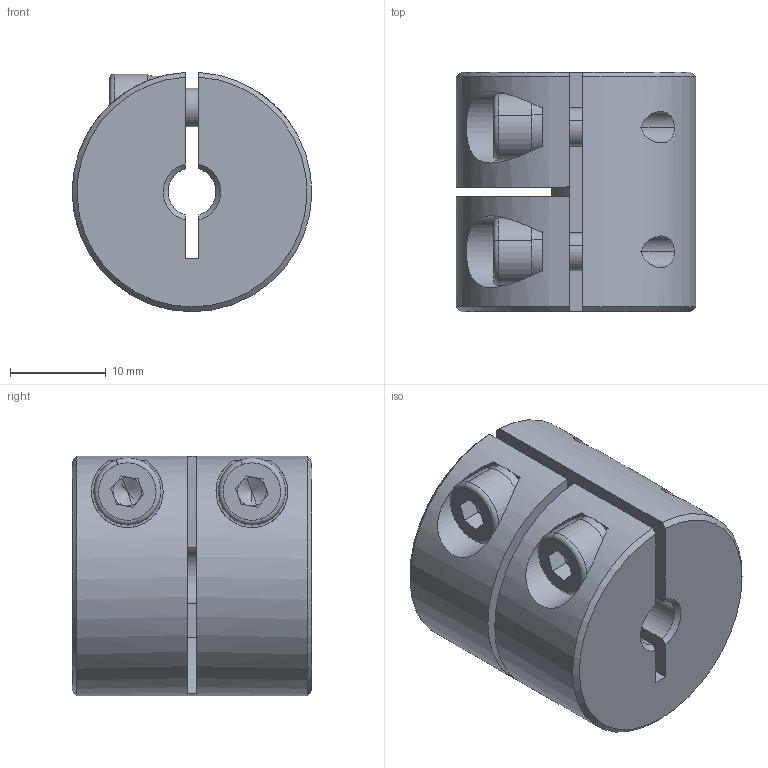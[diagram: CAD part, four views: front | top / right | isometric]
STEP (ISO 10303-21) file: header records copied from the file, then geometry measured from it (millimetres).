
FILE_DESCRIPTION (( 'STEP AP203' ), '1' );
FILE_NAME ('LL-B-D25L25-5-6.STEP', '2021-11-05T05:14:30', ( '' ), ( '' ), 'SwSTEP 2.0', 'SolidWorks 2018', '' );
FILE_SCHEMA (( 'CONFIG_CONTROL_DESIGN' ));
Length unit declared in the file: millimetre
Products named in the file (1): LL-B-D25L25-5-6
Bounding box: 24.99 x 25 x 24.98 mm (x, y, z)
Volume: 10796.7 mm3; surface area: 4953 mm2
Topology: 1 solids, 1 shells, 104 faces, 270 edges, 170 vertices
Faces by surface type: plane 52, cylinder 37, cone 11, torus 4
Entity records: 3471 total; most frequent: CARTESIAN_POINT 815, DIRECTION 560, ORIENTED_EDGE 532, EDGE_CURVE 266, AXIS2_PLACEMENT_3D 215, VERTEX_POINT 170, LINE 130, VECTOR 130
